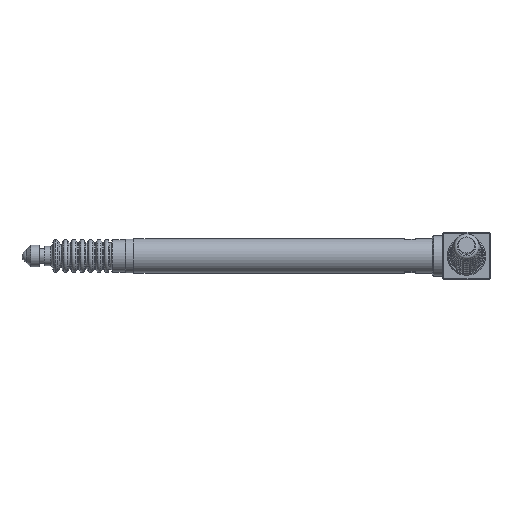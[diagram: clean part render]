
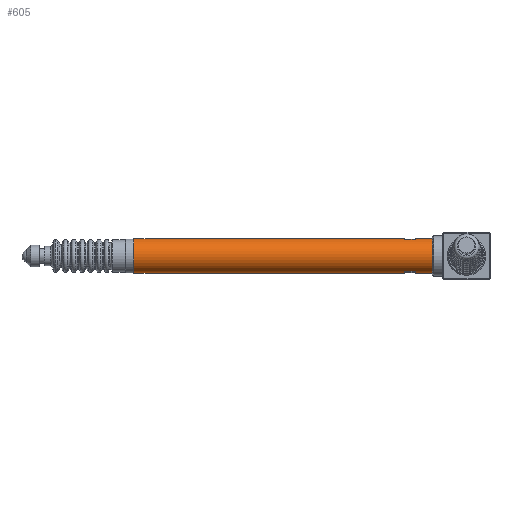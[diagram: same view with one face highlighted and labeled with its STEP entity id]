
A CAD part, front view. The second image highlights one B-rep face of the part: STEP entity #605.
In plain terms, the highlighted cylindrical face has radius 4 mm (diameter 8 mm), a full revolution.
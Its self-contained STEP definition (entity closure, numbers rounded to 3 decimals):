
#605=ADVANCED_FACE('',(#792,#793,#794,#795),#796,.T.);
#792=FACE_OUTER_BOUND('',#1135,.T.);
#793=FACE_OUTER_BOUND('',#1136,.T.);
#794=FACE_BOUND('',#1137,.T.);
#795=FACE_BOUND('',#1138,.T.);
#796=CYLINDRICAL_SURFACE('',#1139,4.0);
#1135=EDGE_LOOP('',(#1626));
#1136=EDGE_LOOP('',(#1627));
#1137=EDGE_LOOP('',(#1628,#1629,#1630,#1631));
#1138=EDGE_LOOP('',(#1632,#1633,#1634,#1635));
#1139=AXIS2_PLACEMENT_3D('',#1636,#1637,#1638);
#1626=ORIENTED_EDGE('',*,*,#2138,.T.);
#1627=ORIENTED_EDGE('',*,*,#2139,.F.);
#1628=ORIENTED_EDGE('',*,*,#2140,.T.);
#1629=ORIENTED_EDGE('',*,*,#2141,.T.);
#1630=ORIENTED_EDGE('',*,*,#2142,.T.);
#1631=ORIENTED_EDGE('',*,*,#2143,.T.);
#1632=ORIENTED_EDGE('',*,*,#2137,.F.);
#1633=ORIENTED_EDGE('',*,*,#2132,.F.);
#1634=ORIENTED_EDGE('',*,*,#2136,.F.);
#1635=ORIENTED_EDGE('',*,*,#2135,.F.);
#1636=CARTESIAN_POINT('',(0.,37.028,0.));
#1637=DIRECTION('',(0.0,-1.0,0.0));
#1638=DIRECTION('',(0.0,0.0,-1.0));
#2132=EDGE_CURVE('',#2314,#2315,#2316,.T.);
#2135=EDGE_CURVE('',#2319,#2318,#2321,.T.);
#2136=EDGE_CURVE('',#2318,#2314,#2322,.T.);
#2137=EDGE_CURVE('',#2315,#2319,#2323,.F.);
#2138=EDGE_CURVE('',#2324,#2324,#2325,.T.);
#2139=EDGE_CURVE('',#2326,#2326,#2327,.T.);
#2140=EDGE_CURVE('',#2328,#2329,#2330,.F.);
#2141=EDGE_CURVE('',#2329,#2331,#2332,.T.);
#2142=EDGE_CURVE('',#2331,#2333,#2334,.T.);
#2143=EDGE_CURVE('',#2333,#2328,#2335,.T.);
#2314=VERTEX_POINT('',#2634);
#2315=VERTEX_POINT('',#2635);
#2316=CIRCLE('',#2636,4.0);
#2318=VERTEX_POINT('',#2639);
#2319=VERTEX_POINT('',#2640);
#2321=CIRCLE('',#2643,4.0);
#2322=LINE('',#2644,#2645);
#2323=LINE('',#2646,#2647);
#2324=VERTEX_POINT('',#2648);
#2325=CIRCLE('',#2649,4.0);
#2326=VERTEX_POINT('',#2650);
#2327=CIRCLE('',#2651,4.0);
#2328=VERTEX_POINT('',#2652);
#2329=VERTEX_POINT('',#2653);
#2330=LINE('',#2654,#2655);
#2331=VERTEX_POINT('',#2656);
#2332=CIRCLE('',#2657,4.0);
#2333=VERTEX_POINT('',#2658);
#2334=LINE('',#2659,#2660);
#2335=CIRCLE('',#2661,4.0);
#2634=CARTESIAN_POINT('',(-1.392,28.528,3.75));
#2635=CARTESIAN_POINT('',(1.392,28.528,3.75));
#2636=AXIS2_PLACEMENT_3D('',#2898,#2899,#2900);
#2639=CARTESIAN_POINT('',(-1.392,31.028,3.75));
#2640=CARTESIAN_POINT('',(1.392,31.028,3.75));
#2643=AXIS2_PLACEMENT_3D('',#2903,#2904,#2905);
#2644=CARTESIAN_POINT('',(-1.392,37.028,3.75));
#2645=VECTOR('',#2906,1.0);
#2646=CARTESIAN_POINT('',(1.392,37.028,3.75));
#2647=VECTOR('',#2907,1.0);
#2648=CARTESIAN_POINT('',(0.,-34.772,4.0));
#2649=AXIS2_PLACEMENT_3D('',#2908,#2909,#2910);
#2650=CARTESIAN_POINT('',(0.,37.028,4.0));
#2651=AXIS2_PLACEMENT_3D('',#2911,#2912,#2913);
#2652=CARTESIAN_POINT('',(1.392,28.528,-3.75));
#2653=CARTESIAN_POINT('',(1.392,31.028,-3.75));
#2654=CARTESIAN_POINT('',(1.392,37.028,-3.75));
#2655=VECTOR('',#2914,1.0);
#2656=CARTESIAN_POINT('',(-1.392,31.028,-3.75));
#2657=AXIS2_PLACEMENT_3D('',#2915,#2916,#2917);
#2658=CARTESIAN_POINT('',(-1.392,28.528,-3.75));
#2659=CARTESIAN_POINT('',(-1.392,37.028,-3.75));
#2660=VECTOR('',#2918,1.0);
#2661=AXIS2_PLACEMENT_3D('',#2919,#2920,#2921);
#2898=CARTESIAN_POINT('',(0.,28.528,0.));
#2899=DIRECTION('',(0.0,1.0,0.0));
#2900=DIRECTION('',(0.0,0.0,1.0));
#2903=CARTESIAN_POINT('',(0.,31.028,0.));
#2904=DIRECTION('',(0.0,-1.0,0.0));
#2905=DIRECTION('',(0.0,0.0,-1.0));
#2906=DIRECTION('',(0.0,-1.0,0.0));
#2907=DIRECTION('',(0.0,-1.0,0.0));
#2908=CARTESIAN_POINT('',(0.,-34.772,0.));
#2909=DIRECTION('',(0.0,1.0,0.0));
#2910=DIRECTION('',(0.0,0.0,1.0));
#2911=CARTESIAN_POINT('',(0.,37.028,0.));
#2912=DIRECTION('',(0.0,1.0,0.0));
#2913=DIRECTION('',(0.0,0.0,1.0));
#2914=DIRECTION('',(0.0,-1.0,0.0));
#2915=CARTESIAN_POINT('',(0.,31.028,0.));
#2916=DIRECTION('',(0.0,1.0,0.0));
#2917=DIRECTION('',(0.0,0.0,1.0));
#2918=DIRECTION('',(0.0,-1.0,0.0));
#2919=CARTESIAN_POINT('',(0.,28.528,0.));
#2920=DIRECTION('',(0.0,-1.0,0.0));
#2921=DIRECTION('',(0.0,0.0,-1.0));
